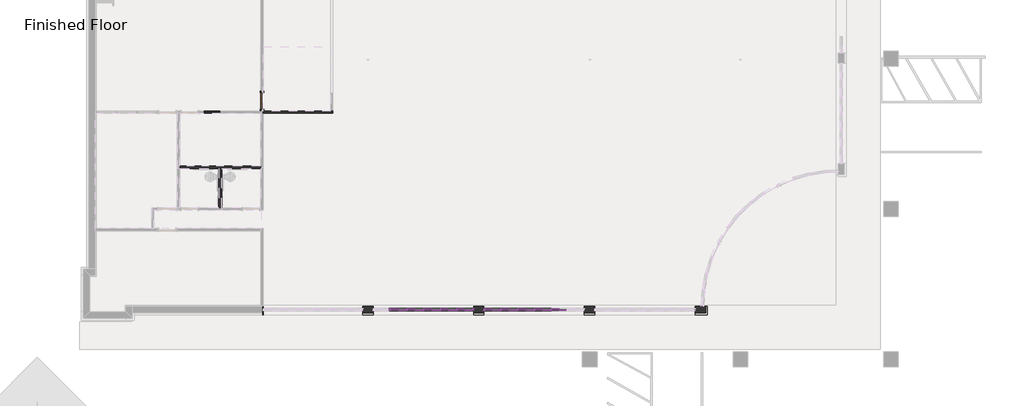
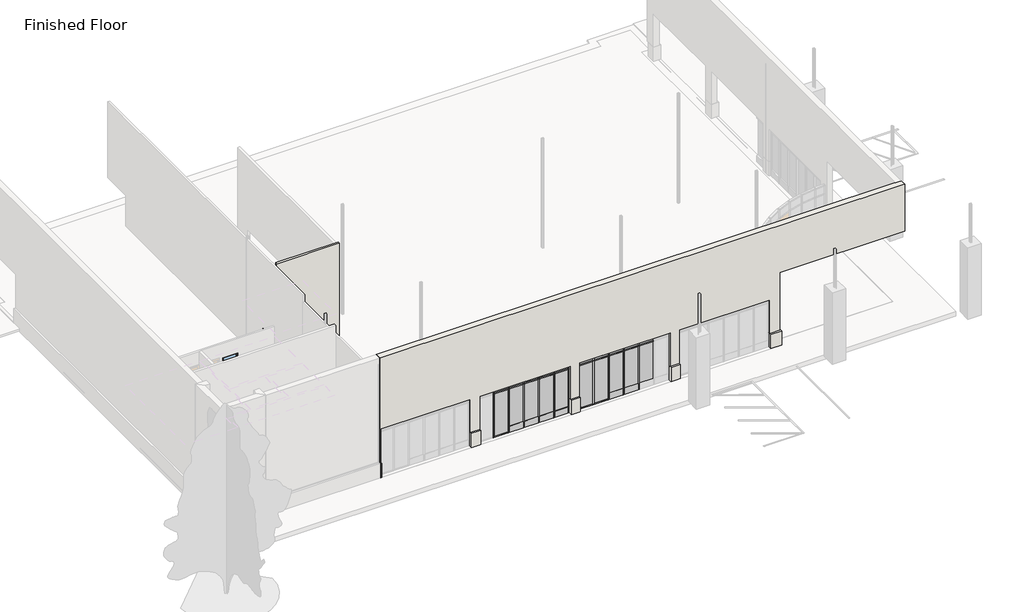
# One storey, part 2 of 6: 51 members, 20 plates, 5 walls, 1 door, 1 window.
"""IFC4 building model written with IfcOpenShell, lengths in millimetres."""

from ifc_helpers import new_model, si_unit, point, frame, origin, origin_with_axes, place, context, project, spatial, polyline, circle_curve, ellipse_curve, trimmed, outline, extrude, faceted_brep, transform, mapped, element, save
from ifc_brep_helpers import plane_surface, revolved_surface, advanced_brep
from components import door_9814c99b, member_d2e7e466, member_7db1855a, member_069002c8, member_a75f139a, member_8a16213d, member_a608d019, member_c17f1be2, member_ad567e07, rectangular_mullion_tall_mullion_dc5872ae, rectangular_mullion_tall_mullion_643de06f, system_panel_glazed_00e77426, system_panel_glazed_d5ca8191, system_panel_glazed_9d8b6f53, system_panel_glazed_0eb5479c, system_panel_glazed_0c1d7574, system_panel_glazed_61942ae4, window_51f22951

model = new_model("IFC4")

# Units and contexts
model_context = context("Model", 3, world=origin())
ifc_project = project(units=[si_unit("LENGTHUNIT", "METRE", prefix="MILLI")], contexts=[model_context])

# Site, building, storey
site = spatial("IfcSite", under=ifc_project)
building = spatial("IfcBuilding", under=site)
storey = spatial("IfcBuildingStorey", under=building, Name="Finished Floor", Elevation=0.0)

# Door
placement = place(None, origin())
door_shape = door_9814c99b(model_context)
element("IfcDoor", 1, ObjectType="Single-Flush : 36\" x 84\" 20Min", at=placement, inside=storey, context=model_context, shape_type="MappedRepresentation", body=[
    mapped(door_shape, transform((-12953.2102721, -2830.0875557, 0.0), x_axis=(0.0, -1.0, 0.0), y_axis=(1.0, 0.0, 0.0), z_axis=(0.0, 0.0, 1.0))),
])

# Members
member_shape = member_d2e7e466(model_context)
element("IfcMember", 2, ObjectType="Rectangular Mullion : 2.5\" x 5\" rectangular", at=placement, inside=storey, context=model_context, shape_type="MappedRepresentation", body=[
    mapped(member_shape, transform((2836.0647279, -14230.7188057, 3048.0), x_axis=(0.0, 0.0, 1.0), y_axis=(0.0, 1.0, 0.0), z_axis=(-1.0, 0.0, 0.0))),
])
element("IfcMember", 3, ObjectType="Rectangular Mullion : 2.5\" x 5\" rectangular", at=placement, inside=storey, context=model_context, shape_type="MappedRepresentation", body=[
    mapped(member_shape, transform((1921.6647279, -14230.7188057, 3048.0), x_axis=(0.0, 0.0, 1.0), y_axis=(0.0, 1.0, 0.0), z_axis=(-1.0, 0.0, 0.0))),
])
element("IfcMember", 4, ObjectType="Rectangular Mullion : 2.5\" x 5\" rectangular", at=placement, inside=storey, context=model_context, shape_type="MappedRepresentation", body=[
    mapped(member_shape, transform((-3209.1352721, -14230.7188057, 3048.0), x_axis=(0.0, 0.0, 1.0), y_axis=(0.0, 1.0, 0.0), z_axis=(-1.0, 0.0, 0.0))),
])
element("IfcMember", 5, ObjectType="Rectangular Mullion : 2.5\" x 5\" rectangular", at=placement, inside=storey, context=model_context, shape_type="MappedRepresentation", body=[
    mapped(member_shape, transform((-4123.5352721, -14230.7188057, 3048.0), x_axis=(0.0, 0.0, 1.0), y_axis=(0.0, 1.0, 0.0), z_axis=(-1.0, 0.0, 0.0))),
])
element("IfcMember", 6, ObjectType="Rectangular Mullion : 2.5\" x 5\" rectangular", at=placement, inside=storey, context=model_context, shape_type="MappedRepresentation", body=[
    mapped(member_shape, transform((1007.2647279, -14230.7188057, 3048.0), x_axis=(0.0, 0.0, 1.0), y_axis=(0.0, 1.0, 0.0), z_axis=(-1.0, 0.0, 0.0))),
])
element("IfcMember", 7, ObjectType="Rectangular Mullion : 2.5\" x 5\" rectangular", at=placement, inside=storey, context=model_context, shape_type="MappedRepresentation", body=[
    mapped(member_shape, transform((92.8647279, -14230.7188057, 3048.0), x_axis=(0.0, 0.0, 1.0), y_axis=(0.0, 1.0, 0.0), z_axis=(-1.0, 0.0, 0.0))),
])
element("IfcMember", 8, ObjectType="Rectangular Mullion : 2.5\" x 5\" rectangular", at=placement, inside=storey, context=model_context, shape_type="MappedRepresentation", body=[
    mapped(member_shape, transform((-5037.9352721, -14230.7188057, 3048.0), x_axis=(0.0, 0.0, 1.0), y_axis=(0.0, 1.0, 0.0), z_axis=(-1.0, 0.0, 0.0))),
])
element("IfcMember", 9, ObjectType="Rectangular Mullion : 2.5\" x 5\" rectangular", at=placement, inside=storey, context=model_context, shape_type="MappedRepresentation", body=[
    mapped(member_shape, transform((-5952.3352721, -14230.7188057, 3048.0), x_axis=(0.0, 0.0, 1.0), y_axis=(0.0, 1.0, 0.0), z_axis=(-1.0, 0.0, 0.0))),
])
member_2_shape = member_7db1855a(model_context)
element("IfcMember", 10, ObjectType="Rectangular Mullion : 2.5\" x 5\" rectangular", at=placement, inside=storey, context=model_context, shape_type="MappedRepresentation", body=[
    mapped(member_2_shape, transform((2836.0647279, -14230.7188057, 2813.05), x_axis=(0.0, 0.0, 1.0), y_axis=(0.0, 1.0, 0.0), z_axis=(-1.0, 0.0, 0.0))),
])
element("IfcMember", 11, ObjectType="Rectangular Mullion : 2.5\" x 5\" rectangular", at=placement, inside=storey, context=model_context, shape_type="MappedRepresentation", body=[
    mapped(member_2_shape, transform((1921.6647279, -14230.7188057, 2813.05), x_axis=(0.0, 0.0, 1.0), y_axis=(0.0, 1.0, 0.0), z_axis=(-1.0, 0.0, 0.0))),
])
element("IfcMember", 12, ObjectType="Rectangular Mullion : 2.5\" x 5\" rectangular", at=placement, inside=storey, context=model_context, shape_type="MappedRepresentation", body=[
    mapped(member_2_shape, transform((1007.2647279, -14230.7188057, 2813.05), x_axis=(0.0, 0.0, 1.0), y_axis=(0.0, 1.0, 0.0), z_axis=(-1.0, 0.0, 0.0))),
])
element("IfcMember", 13, ObjectType="Rectangular Mullion : 2.5\" x 5\" rectangular", at=placement, inside=storey, context=model_context, shape_type="MappedRepresentation", body=[
    mapped(member_2_shape, transform((-3209.1352721, -14230.7188057, 2813.05), x_axis=(0.0, 0.0, 1.0), y_axis=(0.0, 1.0, 0.0), z_axis=(-1.0, 0.0, 0.0))),
])
element("IfcMember", 14, ObjectType="Rectangular Mullion : 2.5\" x 5\" rectangular", at=placement, inside=storey, context=model_context, shape_type="MappedRepresentation", body=[
    mapped(member_2_shape, transform((-4123.5352721, -14230.7188057, 2813.05), x_axis=(0.0, 0.0, 1.0), y_axis=(0.0, 1.0, 0.0), z_axis=(-1.0, 0.0, 0.0))),
])
element("IfcMember", 15, ObjectType="Rectangular Mullion : 2.5\" x 5\" rectangular", at=placement, inside=storey, context=model_context, shape_type="MappedRepresentation", body=[
    mapped(member_2_shape, transform((92.8647279, -14230.7188057, 2813.05), x_axis=(0.0, 0.0, 1.0), y_axis=(0.0, 1.0, 0.0), z_axis=(-1.0, 0.0, 0.0))),
])
element("IfcMember", 16, ObjectType="Rectangular Mullion : 2.5\" x 5\" rectangular", at=placement, inside=storey, context=model_context, shape_type="MappedRepresentation", body=[
    mapped(member_2_shape, transform((-5952.3352721, -14230.7188057, 2813.05), x_axis=(0.0, 0.0, 1.0), y_axis=(0.0, 1.0, 0.0), z_axis=(-1.0, 0.0, 0.0))),
])
element("IfcMember", 17, ObjectType="Rectangular Mullion : 2.5\" x 5\" rectangular", at=placement, inside=storey, context=model_context, shape_type="MappedRepresentation", body=[
    mapped(member_shape, transform((943.7647279, -14230.7188057, 0.0), x_axis=(0.0, 0.0, -1.0), y_axis=(0.0, 1.0, 0.0), z_axis=(1.0, 0.0, 0.0))),
])
element("IfcMember", 18, ObjectType="Rectangular Mullion : 2.5\" x 5\" rectangular", at=placement, inside=storey, context=model_context, shape_type="MappedRepresentation", body=[
    mapped(member_shape, transform((-5101.4352721, -14230.7188057, 0.0), x_axis=(0.0, 0.0, -1.0), y_axis=(0.0, 1.0, 0.0), z_axis=(1.0, 0.0, 0.0))),
])
member_3_shape = member_069002c8(model_context)
element("IfcMember", 19, ObjectType="Rectangular Mullion : 2.5\" x 5\" rectangular", at=placement, inside=storey, context=model_context, shape_type="MappedRepresentation", body=[
    mapped(member_3_shape, transform((2804.3147279, -14230.7188057, 0.0), x_axis=(-1.0, 0.0, 0.0), y_axis=(0.0, 1.0, 0.0), z_axis=(0.0, 0.0, -1.0))),
])
element("IfcMember", 20, ObjectType="Rectangular Mullion : 2.5\" x 5\" rectangular", at=placement, inside=storey, context=model_context, shape_type="MappedRepresentation", body=[
    mapped(member_3_shape, transform((1889.9147279, -14230.7188057, 0.0), x_axis=(-1.0, 0.0, 0.0), y_axis=(0.0, 1.0, 0.0), z_axis=(0.0, 0.0, -1.0))),
])
element("IfcMember", 21, ObjectType="Rectangular Mullion : 2.5\" x 5\" rectangular", at=placement, inside=storey, context=model_context, shape_type="MappedRepresentation", body=[
    mapped(member_3_shape, transform((-2326.4852721, -14230.7188057, 0.0), x_axis=(-1.0, 0.0, 0.0), y_axis=(0.0, 1.0, 0.0), z_axis=(0.0, 0.0, -1.0))),
])
element("IfcMember", 22, ObjectType="Rectangular Mullion : 2.5\" x 5\" rectangular", at=placement, inside=storey, context=model_context, shape_type="MappedRepresentation", body=[
    mapped(member_3_shape, transform((-3240.8852721, -14230.7188057, 0.0), x_axis=(-1.0, 0.0, 0.0), y_axis=(0.0, 1.0, 0.0), z_axis=(0.0, 0.0, -1.0))),
])
element("IfcMember", 23, ObjectType="Rectangular Mullion : 2.5\" x 5\" rectangular", at=placement, inside=storey, context=model_context, shape_type="MappedRepresentation", body=[
    mapped(member_3_shape, transform((-4155.2852721, -14230.7188057, 0.0), x_axis=(-1.0, 0.0, 0.0), y_axis=(0.0, 1.0, 0.0), z_axis=(0.0, 0.0, -1.0))),
])
element("IfcMember", 24, ObjectType="Rectangular Mullion : 2.5\" x 5\" rectangular", at=placement, inside=storey, context=model_context, shape_type="MappedRepresentation", body=[
    mapped(member_3_shape, transform((975.5147279, -14230.7188057, 0.0), x_axis=(-1.0, 0.0, 0.0), y_axis=(0.0, 1.0, 0.0), z_axis=(0.0, 0.0, -1.0))),
])
element("IfcMember", 25, ObjectType="Rectangular Mullion : 2.5\" x 5\" rectangular", at=placement, inside=storey, context=model_context, shape_type="MappedRepresentation", body=[
    mapped(member_3_shape, transform((61.1147279, -14230.7188057, 0.0), x_axis=(-1.0, 0.0, 0.0), y_axis=(0.0, 1.0, 0.0), z_axis=(0.0, 0.0, -1.0))),
])
element("IfcMember", 26, ObjectType="Rectangular Mullion : 2.5\" x 5\" rectangular", at=placement, inside=storey, context=model_context, shape_type="MappedRepresentation", body=[
    mapped(member_3_shape, transform((-5069.6852721, -14230.7188057, 0.0), x_axis=(-1.0, 0.0, 0.0), y_axis=(0.0, 1.0, 0.0), z_axis=(0.0, 0.0, -1.0))),
])
element("IfcMember", 27, ObjectType="Rectangular Mullion : 2.5\" x 5\" rectangular", at=placement, inside=storey, context=model_context, shape_type="MappedRepresentation", body=[
    mapped(member_3_shape, transform((-5984.0852721, -14230.7188057, 0.0), x_axis=(-1.0, 0.0, 0.0), y_axis=(0.0, 1.0, 0.0), z_axis=(0.0, 0.0, -1.0))),
])
member_4_shape = member_a75f139a(model_context)
element("IfcMember", 28, ObjectType="Rectangular Mullion : 2.5\" x 5\" rectangular", at=placement, inside=storey, context=model_context, shape_type="MappedRepresentation", body=[
    mapped(member_4_shape, transform((2804.3147279, -14230.7188057, 2813.05), x_axis=(-1.0, 0.0, 0.0), y_axis=(0.0, 1.0, 0.0), z_axis=(0.0, 0.0, -1.0))),
])
element("IfcMember", 29, ObjectType="Rectangular Mullion : 2.5\" x 5\" rectangular", at=placement, inside=storey, context=model_context, shape_type="MappedRepresentation", body=[
    mapped(member_4_shape, transform((1889.9147279, -14230.7188057, 2813.05), x_axis=(-1.0, 0.0, 0.0), y_axis=(0.0, 1.0, 0.0), z_axis=(0.0, 0.0, -1.0))),
])
element("IfcMember", 30, ObjectType="Rectangular Mullion : 2.5\" x 5\" rectangular", at=placement, inside=storey, context=model_context, shape_type="MappedRepresentation", body=[
    mapped(member_4_shape, transform((-2326.4852721, -14230.7188057, 2813.05), x_axis=(-1.0, 0.0, 0.0), y_axis=(0.0, 1.0, 0.0), z_axis=(0.0, 0.0, -1.0))),
])
element("IfcMember", 31, ObjectType="Rectangular Mullion : 2.5\" x 5\" rectangular", at=placement, inside=storey, context=model_context, shape_type="MappedRepresentation", body=[
    mapped(member_4_shape, transform((-3240.8852721, -14230.7188057, 2813.05), x_axis=(-1.0, 0.0, 0.0), y_axis=(0.0, 1.0, 0.0), z_axis=(0.0, 0.0, -1.0))),
])
element("IfcMember", 32, ObjectType="Rectangular Mullion : 2.5\" x 5\" rectangular", at=placement, inside=storey, context=model_context, shape_type="MappedRepresentation", body=[
    mapped(member_4_shape, transform((-4155.2852721, -14230.7188057, 2813.05), x_axis=(-1.0, 0.0, 0.0), y_axis=(0.0, 1.0, 0.0), z_axis=(0.0, 0.0, -1.0))),
])
element("IfcMember", 33, ObjectType="Rectangular Mullion : 2.5\" x 5\" rectangular", at=placement, inside=storey, context=model_context, shape_type="MappedRepresentation", body=[
    mapped(member_4_shape, transform((975.5147279, -14230.7188057, 2813.05), x_axis=(-1.0, 0.0, 0.0), y_axis=(0.0, 1.0, 0.0), z_axis=(0.0, 0.0, -1.0))),
])
element("IfcMember", 34, ObjectType="Rectangular Mullion : 2.5\" x 5\" rectangular", at=placement, inside=storey, context=model_context, shape_type="MappedRepresentation", body=[
    mapped(member_4_shape, transform((61.1147279, -14230.7188057, 2813.05), x_axis=(-1.0, 0.0, 0.0), y_axis=(0.0, 1.0, 0.0), z_axis=(0.0, 0.0, -1.0))),
])
element("IfcMember", 35, ObjectType="Rectangular Mullion : 2.5\" x 5\" rectangular", at=placement, inside=storey, context=model_context, shape_type="MappedRepresentation", body=[
    mapped(member_4_shape, transform((-5069.6852721, -14230.7188057, 2813.05), x_axis=(-1.0, 0.0, 0.0), y_axis=(0.0, 1.0, 0.0), z_axis=(0.0, 0.0, -1.0))),
])
element("IfcMember", 36, ObjectType="Rectangular Mullion : 2.5\" x 5\" rectangular", at=placement, inside=storey, context=model_context, shape_type="MappedRepresentation", body=[
    mapped(member_4_shape, transform((-5984.0852721, -14230.7188057, 2813.05), x_axis=(-1.0, 0.0, 0.0), y_axis=(0.0, 1.0, 0.0), z_axis=(0.0, 0.0, -1.0))),
])
member_5_shape = member_8a16213d(model_context)
element("IfcMember", 37, ObjectType="Rectangular Mullion : 2.5\" x 5\" rectangular", at=placement, inside=storey, context=model_context, shape_type="MappedRepresentation", body=[
    mapped(member_5_shape, transform((-853.2852721, -14230.7188057, 0.0), x_axis=(-1.0, 0.0, 0.0), y_axis=(0.0, 1.0, 0.0), z_axis=(0.0, 0.0, -1.0))),
])
member_6_shape = member_a608d019(model_context)
element("IfcMember", 38, ObjectType="Rectangular Mullion : 2.5\" x 5\" rectangular", at=placement, inside=storey, context=model_context, shape_type="MappedRepresentation", body=[
    mapped(member_6_shape, transform((-853.2852721, -14230.7188057, 2813.05), x_axis=(-1.0, 0.0, 0.0), y_axis=(0.0, 1.0, 0.0), z_axis=(0.0, 0.0, -1.0))),
])
element("IfcMember", 39, ObjectType="Rectangular Mullion : 2.5\" x 5\" rectangular", at=placement, inside=storey, context=model_context, shape_type="MappedRepresentation", body=[
    mapped(member_6_shape, transform((-1412.0852721, -14230.7188057, 3048.0), x_axis=(1.0, 0.0, 0.0), y_axis=(0.0, 1.0, 0.0), z_axis=(0.0, 0.0, 1.0))),
])
element("IfcMember", 40, ObjectType="Rectangular Mullion : 2.5\" x 5\" rectangular", at=placement, inside=storey, context=model_context, shape_type="MappedRepresentation", body=[
    mapped(member_5_shape, transform((-1412.0852721, -14230.7188057, 2813.05), x_axis=(1.0, 0.0, 0.0), y_axis=(0.0, 1.0, 0.0), z_axis=(0.0, 0.0, 1.0))),
])
member_7_shape = member_c17f1be2(model_context)
element("IfcMember", 41, ObjectType="Rectangular Mullion : 2.5\" x 5\" rectangular", at=placement, inside=storey, context=model_context, shape_type="MappedRepresentation", body=[
    mapped(member_7_shape, transform((-789.7852721, -14230.7188057, 3048.0), x_axis=(0.0, 0.0, 1.0), y_axis=(0.0, 1.0, 0.0), z_axis=(-1.0, 0.0, 0.0))),
])
element("IfcMember", 42, ObjectType="Rectangular Mullion : 2.5\" x 5\" rectangular", at=placement, inside=storey, context=model_context, shape_type="MappedRepresentation", body=[
    mapped(member_7_shape, transform((3750.4647279, -14230.7188057, 3048.0), x_axis=(0.0, 0.0, 1.0), y_axis=(0.0, 1.0, 0.0), z_axis=(-1.0, 0.0, 0.0))),
])
element("IfcMember", 43, ObjectType="Rectangular Mullion : 2.5\" x 5\" rectangular", at=placement, inside=storey, context=model_context, shape_type="MappedRepresentation", body=[
    mapped(member_7_shape, transform((-2294.7352721, -14230.7188057, 3048.0), x_axis=(0.0, 0.0, 1.0), y_axis=(0.0, 1.0, 0.0), z_axis=(-1.0, 0.0, 0.0))),
])
member_8_shape = member_ad567e07(model_context)
element("IfcMember", 44, ObjectType="Rectangular Mullion : 2.5\" x 5\" rectangular", at=placement, inside=storey, context=model_context, shape_type="MappedRepresentation", body=[
    mapped(member_8_shape, transform((-2294.7352721, -14230.7188057, 2813.05), x_axis=(0.0, 0.0, 1.0), y_axis=(0.0, 1.0, 0.0), z_axis=(-1.0, 0.0, 0.0))),
])
element("IfcMember", 45, ObjectType="Rectangular Mullion : 2.5\" x 5\" rectangular", at=placement, inside=storey, context=model_context, shape_type="MappedRepresentation", body=[
    mapped(member_8_shape, transform((-789.7852721, -14230.7188057, 2813.05), x_axis=(0.0, 0.0, 1.0), y_axis=(0.0, 1.0, 0.0), z_axis=(-1.0, 0.0, 0.0))),
])
element("IfcMember", 46, ObjectType="Rectangular Mullion : 2.5\" x 5\" rectangular", at=placement, inside=storey, context=model_context, shape_type="MappedRepresentation", body=[
    mapped(member_7_shape, transform((29.3647279, -14230.7188057, 0.0), x_axis=(0.0, 0.0, -1.0), y_axis=(0.0, 1.0, 0.0), z_axis=(1.0, 0.0, 0.0))),
])
rectangular_mullion_tall_mullion_shape = rectangular_mullion_tall_mullion_dc5872ae(model_context)
element("IfcMember", 47, ObjectType="Rectangular Mullion : Tall Mullion", at=placement, inside=storey, context=model_context, shape_type="MappedRepresentation", body=[
    mapped(rectangular_mullion_tall_mullion_shape, transform((2772.5647279, -14230.7188057, 0.0), x_axis=(0.0, 0.0, -1.0), y_axis=(0.0, 1.0, 0.0), z_axis=(1.0, 0.0, 0.0))),
])
element("IfcMember", 48, ObjectType="Rectangular Mullion : Tall Mullion", at=placement, inside=storey, context=model_context, shape_type="MappedRepresentation", body=[
    mapped(rectangular_mullion_tall_mullion_shape, transform((1858.1647279, -14230.7188057, 0.0), x_axis=(0.0, 0.0, -1.0), y_axis=(0.0, 1.0, 0.0), z_axis=(1.0, 0.0, 0.0))),
])
element("IfcMember", 49, ObjectType="Rectangular Mullion : Tall Mullion", at=placement, inside=storey, context=model_context, shape_type="MappedRepresentation", body=[
    mapped(rectangular_mullion_tall_mullion_shape, transform((-2358.2352721, -14230.7188057, 0.0), x_axis=(0.0, 0.0, -1.0), y_axis=(0.0, 1.0, 0.0), z_axis=(1.0, 0.0, 0.0))),
])
element("IfcMember", 50, ObjectType="Rectangular Mullion : Tall Mullion", at=placement, inside=storey, context=model_context, shape_type="MappedRepresentation", body=[
    mapped(rectangular_mullion_tall_mullion_shape, transform((-3272.6352721, -14230.7188057, 0.0), x_axis=(0.0, 0.0, -1.0), y_axis=(0.0, 1.0, 0.0), z_axis=(1.0, 0.0, 0.0))),
])
element("IfcMember", 51, ObjectType="Rectangular Mullion : Tall Mullion", at=placement, inside=storey, context=model_context, shape_type="MappedRepresentation", body=[
    mapped(rectangular_mullion_tall_mullion_shape, transform((-4187.0352721, -14230.7188057, 0.0), x_axis=(0.0, 0.0, -1.0), y_axis=(0.0, 1.0, 0.0), z_axis=(1.0, 0.0, 0.0))),
])
rectangular_mullion_tall_mullion_2_shape = rectangular_mullion_tall_mullion_643de06f(model_context)
element("IfcMember", 52, ObjectType="Rectangular Mullion : Tall Mullion", at=placement, inside=storey, context=model_context, shape_type="MappedRepresentation", body=[
    mapped(rectangular_mullion_tall_mullion_2_shape, transform((-1475.5852721, -14230.7188057, 0.0), x_axis=(0.0, 0.0, -1.0), y_axis=(0.0, 1.0, 0.0), z_axis=(1.0, 0.0, 0.0))),
])

# Plates
system_panel_glazed_shape = system_panel_glazed_00e77426(model_context)
element("IfcPlate", 53, ObjectType="System Panel : Glazed", at=placement, inside=storey, context=model_context, shape_type="MappedRepresentation", body=[
    mapped(system_panel_glazed_shape, transform((3261.5147279, -14230.7188057, 406.4), x_axis=(-1.0, 0.0, 0.0), y_axis=(0.0, -1.0, 0.0), z_axis=(0.0, 0.0, 1.0))),
])
element("IfcPlate", 54, ObjectType="System Panel : Glazed", at=placement, inside=storey, context=model_context, shape_type="MappedRepresentation", body=[
    mapped(system_panel_glazed_shape, transform((2347.1147279, -14230.7188057, 406.4), x_axis=(-1.0, 0.0, 0.0), y_axis=(0.0, -1.0, 0.0), z_axis=(0.0, 0.0, 1.0))),
])
element("IfcPlate", 55, ObjectType="System Panel : Glazed", at=placement, inside=storey, context=model_context, shape_type="MappedRepresentation", body=[
    mapped(system_panel_glazed_shape, transform((1432.7147279, -14230.7188057, 406.4), x_axis=(-1.0, 0.0, 0.0), y_axis=(0.0, -1.0, 0.0), z_axis=(0.0, 0.0, 1.0))),
])
element("IfcPlate", 56, ObjectType="System Panel : Glazed", at=placement, inside=storey, context=model_context, shape_type="MappedRepresentation", body=[
    mapped(system_panel_glazed_shape, transform((-2783.6852721, -14230.7188057, 406.4), x_axis=(-1.0, 0.0, 0.0), y_axis=(0.0, -1.0, 0.0), z_axis=(0.0, 0.0, 1.0))),
])
element("IfcPlate", 57, ObjectType="System Panel : Glazed", at=placement, inside=storey, context=model_context, shape_type="MappedRepresentation", body=[
    mapped(system_panel_glazed_shape, transform((-3698.0852721, -14230.7188057, 406.4), x_axis=(-1.0, 0.0, 0.0), y_axis=(0.0, -1.0, 0.0), z_axis=(0.0, 0.0, 1.0))),
])
element("IfcPlate", 58, ObjectType="System Panel : Glazed", at=placement, inside=storey, context=model_context, shape_type="MappedRepresentation", body=[
    mapped(system_panel_glazed_shape, transform((-4612.4852721, -14230.7188057, 406.4), x_axis=(-1.0, 0.0, 0.0), y_axis=(0.0, -1.0, 0.0), z_axis=(0.0, 0.0, 1.0))),
])
system_panel_glazed_2_shape = system_panel_glazed_d5ca8191(model_context)
element("IfcPlate", 59, ObjectType="System Panel : Glazed", at=placement, inside=storey, context=model_context, shape_type="MappedRepresentation", body=[
    mapped(system_panel_glazed_2_shape, transform((3261.5147279, -14230.7188057, 2844.8), x_axis=(-1.0, 0.0, 0.0), y_axis=(0.0, -1.0, 0.0), z_axis=(0.0, 0.0, 1.0))),
])
element("IfcPlate", 60, ObjectType="System Panel : Glazed", at=placement, inside=storey, context=model_context, shape_type="MappedRepresentation", body=[
    mapped(system_panel_glazed_2_shape, transform((2347.1147279, -14230.7188057, 2844.8), x_axis=(-1.0, 0.0, 0.0), y_axis=(0.0, -1.0, 0.0), z_axis=(0.0, 0.0, 1.0))),
])
element("IfcPlate", 61, ObjectType="System Panel : Glazed", at=placement, inside=storey, context=model_context, shape_type="MappedRepresentation", body=[
    mapped(system_panel_glazed_2_shape, transform((1432.7147279, -14230.7188057, 2844.8), x_axis=(-1.0, 0.0, 0.0), y_axis=(0.0, -1.0, 0.0), z_axis=(0.0, 0.0, 1.0))),
])
element("IfcPlate", 62, ObjectType="System Panel : Glazed", at=placement, inside=storey, context=model_context, shape_type="MappedRepresentation", body=[
    mapped(system_panel_glazed_2_shape, transform((-2783.6852721, -14230.7188057, 2844.8), x_axis=(-1.0, 0.0, 0.0), y_axis=(0.0, -1.0, 0.0), z_axis=(0.0, 0.0, 1.0))),
])
element("IfcPlate", 63, ObjectType="System Panel : Glazed", at=placement, inside=storey, context=model_context, shape_type="MappedRepresentation", body=[
    mapped(system_panel_glazed_2_shape, transform((-3698.0852721, -14230.7188057, 2844.8), x_axis=(-1.0, 0.0, 0.0), y_axis=(0.0, -1.0, 0.0), z_axis=(0.0, 0.0, 1.0))),
])
element("IfcPlate", 64, ObjectType="System Panel : Glazed", at=placement, inside=storey, context=model_context, shape_type="MappedRepresentation", body=[
    mapped(system_panel_glazed_2_shape, transform((-4612.4852721, -14230.7188057, 2844.8), x_axis=(-1.0, 0.0, 0.0), y_axis=(0.0, -1.0, 0.0), z_axis=(0.0, 0.0, 1.0))),
])
element("IfcPlate", 65, ObjectType="System Panel : Glazed", at=placement, inside=storey, context=model_context, shape_type="MappedRepresentation", body=[
    mapped(system_panel_glazed_2_shape, transform((518.3147279, -14230.7188057, 2844.8), x_axis=(-1.0, 0.0, 0.0), y_axis=(0.0, -1.0, 0.0), z_axis=(0.0, 0.0, 1.0))),
])
element("IfcPlate", 66, ObjectType="System Panel : Glazed", at=placement, inside=storey, context=model_context, shape_type="MappedRepresentation", body=[
    mapped(system_panel_glazed_2_shape, transform((-5526.8852721, -14230.7188057, 2844.8), x_axis=(-1.0, 0.0, 0.0), y_axis=(0.0, -1.0, 0.0), z_axis=(0.0, 0.0, 1.0))),
])
system_panel_glazed_3_shape = system_panel_glazed_9d8b6f53(model_context)
element("IfcPlate", 67, ObjectType="System Panel : Glazed", at=placement, inside=storey, context=model_context, shape_type="MappedRepresentation", body=[
    mapped(system_panel_glazed_3_shape, transform((518.3147279, -14230.7188057, 63.5), x_axis=(-1.0, 0.0, 0.0), y_axis=(0.0, -1.0, 0.0), z_axis=(0.0, 0.0, 1.0))),
])
element("IfcPlate", 68, ObjectType="System Panel : Glazed", at=placement, inside=storey, context=model_context, shape_type="MappedRepresentation", body=[
    mapped(system_panel_glazed_3_shape, transform((-5526.8852721, -14230.7188057, 63.5), x_axis=(-1.0, 0.0, 0.0), y_axis=(0.0, -1.0, 0.0), z_axis=(0.0, 0.0, 1.0))),
])
system_panel_glazed_4_shape = system_panel_glazed_0eb5479c(model_context)
element("IfcPlate", 69, ObjectType="System Panel : Glazed", at=placement, inside=storey, context=model_context, shape_type="MappedRepresentation", body=[
    mapped(system_panel_glazed_4_shape, transform((-1885.1602721, -14230.7188057, 406.4), x_axis=(-1.0, 0.0, 0.0), y_axis=(0.0, -1.0, 0.0), z_axis=(0.0, 0.0, 1.0))),
])
system_panel_glazed_5_shape = system_panel_glazed_0c1d7574(model_context)
element("IfcPlate", 70, ObjectType="System Panel : Glazed", at=placement, inside=storey, context=model_context, shape_type="MappedRepresentation", body=[
    mapped(system_panel_glazed_5_shape, transform((-1885.1602721, -14230.7188057, 2844.8), x_axis=(-1.0, 0.0, 0.0), y_axis=(0.0, -1.0, 0.0), z_axis=(0.0, 0.0, 1.0))),
])
element("IfcPlate", 71, ObjectType="System Panel : Glazed", at=placement, inside=storey, context=model_context, shape_type="MappedRepresentation", body=[
    mapped(system_panel_glazed_5_shape, transform((-380.2102721, -14230.7188057, 2844.8), x_axis=(-1.0, 0.0, 0.0), y_axis=(0.0, -1.0, 0.0), z_axis=(0.0, 0.0, 1.0))),
])
system_panel_glazed_6_shape = system_panel_glazed_61942ae4(model_context)
element("IfcPlate", 72, ObjectType="System Panel : Glazed", at=placement, inside=storey, context=model_context, shape_type="MappedRepresentation", body=[
    mapped(system_panel_glazed_6_shape, transform((-380.2102721, -14230.7188057, 63.5), x_axis=(-1.0, 0.0, 0.0), y_axis=(0.0, -1.0, 0.0), z_axis=(0.0, 0.0, 1.0))),
])

# Walls
element("IfcWall", 73, ObjectType="Exterior - Brick on Mtl. Stud", at=placement, inside=storey, context=model_context, shape_type="AdvancedBrep", body=[
    advanced_brep(
    [(-12953.2102721, -14054.5063057, 7620.0), (18477.7022279, -14054.5063057, 7620.0), (18830.1272279, -14054.5063057, 7620.0), (18830.1272279, -14054.5063057, 4625.5040439), (18477.7022279, -14054.5063057, 4625.5040439), (11260.9272279, -14054.5063057, 4625.5040439), (11260.9272279, -14054.5063057, 3048.0), (11260.9272279, -14054.5063057, 914.4), (10678.3147279, -14054.5063057, 914.4), (10678.3147279, -14054.5063057, 3048.0), (5191.9147279, -14054.5063057, 3048.0), (5191.9147279, -14054.5063057, 914.4), (4633.1147279, -14054.5063057, 914.4), (4633.1147279, -14054.5063057, 3048.0), (-853.2852721, -14054.5063057, 3048.0), (-853.2852721, -14054.5063057, 914.4), (-1412.0852721, -14054.5063057, 914.4), (-1412.0852721, -14054.5063057, 3048.0), (-6898.4852721, -14054.5063057, 3048.0), (-6898.4852721, -14054.5063057, 914.4), (-7457.2852721, -14054.5063057, 914.4), (-7457.2852721, -14054.5063057, 3048.0), (-12883.3602721, -14054.5063057, 3048.0), (-12883.3602721, -14054.5063057, 914.4), (-12953.2102721, -14054.5063057, 914.4), (18830.1272279, -14406.9313057, 7620.0), (-12953.2102721, -14406.9313057, 7620.0), (-12953.2102721, -14406.9313057, 984.25), (-12953.2102721, -14406.9313057, 914.4), (-12883.3602721, -14406.9313057, 914.4), (-12883.3602721, -14406.9313057, 3048.0), (-7457.2852721, -14406.9313057, 3048.0), (-7457.2852721, -14406.9313057, 914.4), (-6898.4852721, -14406.9313057, 914.4), (-6898.4852721, -14406.9313057, 3048.0), (-1412.0852721, -14406.9313057, 3048.0), (-1412.0852721, -14406.9313057, 914.4), (-853.2852721, -14406.9313057, 914.4), (-853.2852721, -14406.9313057, 3048.0), (4633.1147279, -14406.9313057, 3048.0), (4633.1147279, -14406.9313057, 914.4), (5191.9147279, -14406.9313057, 914.4), (5191.9147279, -14406.9313057, 3048.0), (10678.3147279, -14406.9313057, 3048.0), (10678.3147279, -14406.9313057, 914.4), (11269.5375503, -14406.9313057, 914.4), (11269.5375503, -14406.9313057, 4625.5040439), (18830.1272279, -14406.9313057, 4625.5040439), (-12953.2102721, -14397.4063057, 914.4)],
    [
        (0, 1),
        (1, 2),
        (2, 3),
        (3, 4),
        (4, 5),
        (5, 6),
        (6, 7),
        (7, 8),
        (8, 9),
        (9, 10),
        (10, 11),
        (11, 12),
        (12, 13),
        (13, 14),
        (14, 15),
        (15, 16),
        (16, 17),
        (17, 18),
        (18, 19),
        (19, 20),
        (20, 21),
        (21, 22),
        (22, 23),
        (23, 24),
        (24, 0),
        (25, 26),
        (26, 27),
        (27, 28),
        (28, 29),
        (29, 30),
        (30, 31),
        (31, 32),
        (32, 33),
        (33, 34),
        (34, 35),
        (35, 36),
        (36, 37),
        (37, 38),
        (38, 39),
        (39, 40),
        (40, 41),
        (41, 42),
        (42, 43),
        (43, 44),
        (44, 45),
        (45, 46),
        (46, 47),
        (47, 25),
        (43, 9),
        (8, 44),
        (42, 10),
        (41, 11),
        (31, 21),
        (20, 32),
        (30, 22),
        (29, 23),
        (39, 13),
        (12, 40),
        (38, 14),
        (37, 15),
        (35, 17),
        (16, 36),
        (34, 18),
        (33, 19),
        (0, 26),
        (25, 2),
        (7, 45, circle_curve(frame((18477.7022279, -14054.5063057, 914.4), z_axis=(0.0, 0.0, 1.0), x_axis=(1.0, 0.0, 0.0)), 7216.775)),
        (28, 48),
        (48, 24),
        (3, 47),
        (46, 5, circle_curve(frame((18477.7022279, -14054.5063057, 4625.5040439), z_axis=(0.0, 0.0, -1.0), x_axis=(1.0, 0.0, 0.0)), 7216.775)),
    ],
    [
        plane_surface(frame((-12953.2102721, -14054.5063057, 7620.0), z_axis=(0.0, 1.0, 0.0), x_axis=(1.0, 0.0, 0.0))),
        plane_surface(frame((-12953.2102721, -14406.9313057, 7620.0), z_axis=(0.0, -1.0, 0.0), x_axis=(-1.0, 0.0, 0.0))),
        plane_surface(frame((10678.3147279, -14559.3313057, 0.0), z_axis=(-1.0, 0.0, 0.0), x_axis=(0.0, 1.0, 0.0))),
        plane_surface(frame((10678.3147279, -14559.3313057, 3048.0), z_axis=(0.0, 0.0, -1.0), x_axis=(0.0, 1.0, 0.0))),
        plane_surface(frame((5191.9147279, -14559.3313057, 3048.0), z_axis=(1.0, 0.0, 0.0), x_axis=(0.0, 1.0, 0.0))),
        plane_surface(frame((-7457.2852721, -14559.3313057, 0.0), z_axis=(-1.0, 0.0, 0.0), x_axis=(0.0, 1.0, 0.0))),
        plane_surface(frame((-7457.2852721, -14559.3313057, 3048.0), z_axis=(0.0, 0.0, -1.0), x_axis=(0.0, 1.0, 0.0))),
        plane_surface(frame((-12883.3602721, -14559.3313057, 3048.0), z_axis=(1.0, 0.0, 0.0), x_axis=(0.0, 1.0, 0.0))),
        plane_surface(frame((4633.1147279, -14559.3313057, 0.0), z_axis=(-1.0, 0.0, 0.0), x_axis=(0.0, 1.0, 0.0))),
        plane_surface(frame((4633.1147279, -14559.3313057, 3048.0), z_axis=(0.0, 0.0, -1.0), x_axis=(0.0, 1.0, 0.0))),
        plane_surface(frame((-853.2852721, -14559.3313057, 3048.0), z_axis=(1.0, 0.0, 0.0), x_axis=(0.0, 1.0, 0.0))),
        plane_surface(frame((-1412.0852721, -14559.3313057, 0.0), z_axis=(-1.0, 0.0, 0.0), x_axis=(0.0, 1.0, 0.0))),
        plane_surface(frame((-1412.0852721, -14559.3313057, 3048.0), z_axis=(0.0, 0.0, -1.0), x_axis=(0.0, 1.0, 0.0))),
        plane_surface(frame((-6898.4852721, -14559.3313057, 3048.0), z_axis=(1.0, 0.0, 0.0), x_axis=(0.0, 1.0, 0.0))),
        plane_surface(frame((-12953.2102721, -14054.5063057, 7620.0), z_axis=(0.0, 0.0, 1.0), x_axis=(0.0, -1.0, 0.0))),
        plane_surface(frame((11086.8150464, -14054.5063057, 914.4), z_axis=(0.0, 0.0, -1.0), x_axis=(0.0, -1.0, 0.0))),
        plane_surface(frame((18653.9147279, -14054.5063057, 4625.5040439), z_axis=(0.0, 0.0, -1.0), x_axis=(0.0, -1.0, 0.0))),
        plane_surface(frame((18830.1272279, 12134.4811943, 7620.0), z_axis=(1.0, 0.0, 0.0), x_axis=(0.0, 0.0, 1.0))),
        revolved_surface(polyline([(25694.477227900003, -14054.5063057, 914.4000000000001), (25694.477227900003, -14054.5063057, 4625.5040439)]), (18477.7022279, -14054.5063057, 4572.0), (0.0, 0.0, -1.0)),
        plane_surface(frame((-12953.2102721, -14054.5063057, 914.4), z_axis=(-1.0, 0.0, 0.0), x_axis=(0.0, -1.0, 0.0))),
    ],
    [
        (0, [[1, 2, 3, 4, 5, 6, 7, 8, 9, 10, 11, 12, 13, 14, 15, 16, 17, 18, 19, 20, 21, 22, 23, 24, 25]]),
        (1, [[26, 27, 28, 29, 30, 31, 32, 33, 34, 35, 36, 37, 38, 39, 40, 41, 42, 43, 44, 45, 46, 47, 48]]),
        (2, [[49, -9, 50, -44]]),
        (3, [[-49, -43, 51, -10]]),
        (4, [[-51, -42, 52, -11]]),
        (5, [[53, -21, 54, -32]]),
        (6, [[-53, -31, 55, -22]]),
        (7, [[-55, -30, 56, -23]]),
        (8, [[57, -13, 58, -40]]),
        (9, [[-57, -39, 59, -14]]),
        (10, [[-59, -38, 60, -15]]),
        (11, [[61, -17, 62, -36]]),
        (12, [[-61, -35, 63, -18]]),
        (13, [[-63, -34, 64, -19]]),
        (14, [[-2, -1, 65, -26, 66]]),
        (15, [[-52, -41, -58, -12]]),
        (15, [[-54, -20, -64, -33]]),
        (15, [[-60, -37, -62, -16]]),
        (15, [[-8, 67, -45, -50]]),
        (15, [[68, 69, -24, -56, -29]]),
        (16, [[-5, -4, 70, -47, 71]]),
        (17, [[-3, -66, -48, -70]]),
        (18, [[-7, -6, -71, -46, -67]]),
        (19, [[-69, -68, -28, -27, -65, -25]]),
    ],
),
])
element("IfcWall", 74, ObjectType="Exterior - CMU on Mtl. Stud", at=placement, inside=storey, context=model_context, shape_type="Brep", body=[
    faceted_brep([(10678.3147279, -14054.5063057, 0.0), (10678.3147279, -14054.5063057, 914.4), (11260.9272279, -14054.5063057, 914.4), (11340.2095287, -14054.5063057, 914.4), (11340.2095287, -14054.5063057, 0.0), (10678.3147279, -14508.5313057, 914.4), (10678.3147279, -14508.5313057, 0.0), (11340.2095287, -14508.5313057, 0.0), (11340.2095287, -14508.5313057, 914.4), (10678.3147279, -14314.8563057, 0.0), (10678.3147279, -14406.9313057, 914.4), (10678.3147279, -14397.4063057, 914.4), (11340.2095287, -14397.4063057, 914.4), (11340.2095287, -14314.8563057, 0.0)], [[[0, 1, 2, 3, 4]], [[5, 6, 7, 8]], [[1, 0, 9, 6, 5, 10, 11]], [[3, 2, 1, 11, 10, 5, 8, 12]], [[4, 3, 12, 8, 7, 13]], [[0, 4, 13, 9]], [[13, 7, 6, 9]]]),
    faceted_brep([(5191.9147279, -14054.5063057, 914.4), (5191.9147279, -14054.5063057, 0.0), (4633.1147279, -14054.5063057, 0.0), (4633.1147279, -14054.5063057, 914.4), (5191.9147279, -14508.5313057, 0.0), (5191.9147279, -14508.5313057, 914.4), (4633.1147279, -14508.5313057, 914.4), (4633.1147279, -14508.5313057, 0.0), (5191.9147279, -14397.4063057, 914.4), (5191.9147279, -14406.9313057, 914.4), (5191.9147279, -14314.8563057, 0.0), (4633.1147279, -14314.8563057, 0.0), (4633.1147279, -14406.9313057, 914.4), (4633.1147279, -14397.4063057, 914.4)], [[[0, 1, 2, 3]], [[4, 5, 6, 7]], [[1, 0, 8, 9, 5, 4, 10]], [[3, 2, 11, 7, 6, 12, 13]], [[5, 9, 8, 0, 3, 13, 12, 6]], [[2, 1, 10, 11]], [[10, 4, 7, 11]]]),
    faceted_brep([(-7457.2852721, -14054.5063057, 0.0), (-7457.2852721, -14054.5063057, 914.4), (-6898.4852721, -14054.5063057, 914.4), (-6898.4852721, -14054.5063057, 0.0), (-7457.2852721, -14508.5313057, 914.4), (-7457.2852721, -14508.5313057, 0.0), (-6898.4852721, -14508.5313057, 0.0), (-6898.4852721, -14508.5313057, 914.4), (-7457.2852721, -14314.8563057, 0.0), (-7457.2852721, -14406.9313057, 914.4), (-7457.2852721, -14397.4063057, 914.4), (-6898.4852721, -14397.4063057, 914.4), (-6898.4852721, -14406.9313057, 914.4), (-6898.4852721, -14314.8563057, 0.0)], [[[0, 1, 2, 3]], [[4, 5, 6, 7]], [[1, 0, 8, 5, 4, 9, 10]], [[3, 2, 11, 12, 7, 6, 13]], [[1, 10, 9, 4, 7, 12, 11, 2]], [[8, 0, 3, 13]], [[5, 8, 13, 6]]]),
    faceted_brep([(-853.2852721, -14054.5063057, 914.4), (-853.2852721, -14054.5063057, 0.0), (-1412.0852721, -14054.5063057, 0.0), (-1412.0852721, -14054.5063057, 914.4), (-853.2852721, -14508.5313057, 0.0), (-853.2852721, -14508.5313057, 914.4), (-1412.0852721, -14508.5313057, 914.4), (-1412.0852721, -14508.5313057, 0.0), (-853.2852721, -14397.4063057, 914.4), (-853.2852721, -14406.9313057, 914.4), (-853.2852721, -14314.8563057, 0.0), (-1412.0852721, -14314.8563057, 0.0), (-1412.0852721, -14406.9313057, 914.4), (-1412.0852721, -14397.4063057, 914.4)], [[[0, 1, 2, 3]], [[4, 5, 6, 7]], [[1, 0, 8, 9, 5, 4, 10]], [[3, 2, 11, 7, 6, 12, 13]], [[5, 9, 8, 0, 3, 13, 12, 6]], [[1, 10, 11, 2]], [[10, 4, 7, 11]]]),
    faceted_brep([(-12953.2102721, -14054.5063057, 0.0), (-12953.2102721, -14054.5063057, 914.4), (-12883.3602721, -14054.5063057, 914.4), (-12883.3602721, -14054.5063057, 0.0), (-12953.2102721, -14508.5313057, 914.4), (-12953.2102721, -14508.5313057, 0.0), (-12883.3602721, -14508.5313057, 0.0), (-12883.3602721, -14508.5313057, 914.4), (-12883.3602721, -14397.4063057, 914.4), (-12883.3602721, -14406.9313057, 914.4), (-12883.3602721, -14314.8563057, 0.0), (-12953.2102721, -14314.8563057, 0.0), (-12953.2102721, -14406.9313057, 914.4), (-12953.2102721, -14397.4063057, 914.4)], [[[0, 1, 2, 3]], [[4, 5, 6, 7]], [[3, 2, 8, 9, 7, 6, 10]], [[1, 0, 11, 5, 4, 12, 13]], [[1, 13, 12, 4, 7, 9, 8, 2]], [[0, 3, 10, 11]], [[5, 11, 10, 6]]]),
])
element("IfcWall", 75, ObjectType="Interior - 5 1/2\" Partition", at=placement, inside=storey, context=model_context, shape_type="AdvancedBrep", body=[
    advanced_brep(
    [(-13023.0602721, -6395.6125557, 0.0), (-17461.7102721, -6395.6125557, 0.0), (-17461.7102721, -6395.6125557, 3048.0), (-13023.0602721, -6395.6125557, 3048.0), (-17461.7102721, -6516.2625557, 0.0), (-15328.1102721, -6516.2625557, 0.0), (-15156.6602721, -6516.2625557, 0.0), (-13023.0602721, -6516.2625557, 0.0), (-13023.0602721, -6516.2625557, 3048.0), (-15156.6602721, -6516.2625557, 3048.0), (-15328.1102721, -6516.2625557, 3048.0), (-17461.7102721, -6516.2625557, 3048.0), (-14334.3352721, -6516.2625557, 482.6), (-14194.6352721, -6516.2625557, 482.6), (-16207.5852721, -6516.2625557, 310.7591476), (-16067.8852721, -6516.2625557, 310.7591476), (-13023.0602721, -6455.9375557, 0.0), (-14194.6352721, -6425.7115557, 482.6), (-14334.3352721, -6425.7115557, 482.6), (-14324.8737721, -6416.2500557, 482.6), (-14204.0967721, -6416.2500557, 482.6), (-14264.4852721, -6416.2500557, 482.6), (-16207.5852721, -6425.7115557, 310.7591476), (-16067.8852721, -6425.7115557, 310.7591476), (-16198.1237721, -6416.2500557, 310.7591476), (-16077.3467721, -6416.2500557, 310.7591476), (-16137.7352721, -6416.2500557, 310.7591476)],
    [
        (0, 1),
        (1, 2),
        (2, 3),
        (3, 0),
        (4, 5),
        (5, 6),
        (6, 7),
        (7, 8),
        (8, 9),
        (9, 10),
        (10, 11),
        (11, 4),
        (12, 13, circle_curve(frame((-14264.4852721, -6516.2625557, 482.6), z_axis=(0.0, 1.0, 0.0), x_axis=(-1.0, 0.0, 0.0)), 69.85)),
        (13, 12, circle_curve(frame((-14264.4852721, -6516.2625557, 482.6), z_axis=(0.0, 1.0, 0.0), x_axis=(-1.0, 0.0, 0.0)), 69.85)),
        (14, 15, circle_curve(frame((-16137.7352721, -6516.2625557, 310.7591476), z_axis=(0.0, 1.0, 0.0), x_axis=(1.0, 0.0, 0.0)), 69.85)),
        (15, 14, circle_curve(frame((-16137.7352721, -6516.2625557, 310.7591476), z_axis=(0.0, 1.0, 0.0), x_axis=(1.0, 0.0, 0.0)), 69.85)),
        (0, 16),
        (16, 7),
        (4, 1),
        (2, 11),
        (8, 3),
        (17, 13),
        (12, 18),
        (18, 17, circle_curve(frame((-14264.4852721, -6425.7115557, 482.6), z_axis=(0.0, 1.0, 0.0), x_axis=(-1.0, 0.0, 0.0)), 69.85)),
        (17, 18, circle_curve(frame((-14264.4852721, -6425.7115557, 482.6), z_axis=(0.0, 1.0, 0.0), x_axis=(-1.0, 0.0, 0.0)), 69.85)),
        (18, 19, circle_curve(frame((-14324.8737721, -6425.7115557, 482.6), z_axis=(0.0, 0.0, -1.0), x_axis=(1.0, 0.0, 0.0)), 9.4615)),
        (19, 20, circle_curve(frame((-14264.4852721, -6416.2500557, 482.6), z_axis=(0.0, 1.0, 0.0), x_axis=(-1.0, 0.0, 0.0)), 60.3885)),
        (20, 17, circle_curve(frame((-14204.0967721, -6425.7115557, 482.6), z_axis=(0.0, 0.0, -1.0), x_axis=(-1.0, 0.0, 0.0)), 9.4615)),
        (20, 19, circle_curve(frame((-14264.4852721, -6416.2500557, 482.6), z_axis=(0.0, 1.0, 0.0), x_axis=(-1.0, 0.0, 0.0)), 60.3885)),
        (19, 21),
        (21, 20),
        (22, 23, circle_curve(frame((-16137.7352721, -6425.7115557, 310.7591476), z_axis=(0.0, 1.0, 0.0), x_axis=(1.0, 0.0, 0.0)), 69.85)),
        (23, 15),
        (14, 22),
        (23, 22, circle_curve(frame((-16137.7352721, -6425.7115557, 310.7591476), z_axis=(0.0, 1.0, 0.0), x_axis=(1.0, 0.0, 0.0)), 69.85)),
        (22, 24, circle_curve(frame((-16198.1237721, -6425.7115557, 310.7591476), z_axis=(0.0, 0.0, -1.0), x_axis=(1.0, 0.0, 0.0)), 9.4615)),
        (24, 25, circle_curve(frame((-16137.7352721, -6416.2500557, 310.7591476), z_axis=(0.0, 1.0, 0.0), x_axis=(1.0, 0.0, 0.0)), 60.3885)),
        (25, 23, circle_curve(frame((-16077.3467721, -6425.7115557, 310.7591476), z_axis=(0.0, 0.0, -1.0), x_axis=(-1.0, 0.0, 0.0)), 9.4615)),
        (25, 24, circle_curve(frame((-16137.7352721, -6416.2500557, 310.7591476), z_axis=(0.0, 1.0, 0.0), x_axis=(1.0, 0.0, 0.0)), 60.3885)),
        (24, 26),
        (26, 25),
    ],
    [
        plane_surface(frame((-15140.7852721, -6395.6125557, 0.0), z_axis=(0.0, 1.0, 0.0), x_axis=(-1.0, 0.0, 0.0))),
        plane_surface(frame((-15140.7852721, -6516.2625557, 0.0), z_axis=(0.0, -1.0, 0.0), x_axis=(1.0, 0.0, 0.0))),
        plane_surface(frame((-12953.2102721, -6395.6125557, 0.0), z_axis=(0.0, 0.0, -1.0), x_axis=(0.0, -1.0, 0.0))),
        plane_surface(frame((-17522.0352721, -6395.6125557, 3048.0), z_axis=(0.0, 0.0, 1.0), x_axis=(0.0, -1.0, 0.0))),
        plane_surface(frame((-17461.7102721, -6455.9375557, 0.0), z_axis=(-1.0, 0.0, 0.0), x_axis=(0.0, 1.0, 0.0))),
        revolved_surface(polyline([(-14334.335272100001, -6425.7115557, 482.6), (-14334.335272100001, -6516.2625557, 482.6)]), (-14264.4852721, -6605.1625557, 482.6), (0.0, 1.0, 0.0)),
        revolved_surface(trimmed(ellipse_curve(frame((-14324.8737721, -6425.7115557, 482.6), z_axis=(0.0, 0.0, 1.0), x_axis=(1.0, 0.0, 0.0)), 9.4615, 9.4615), [point((-14324.8737721, -6416.2500557, 482.6))], [point((-14334.3352721, -6425.7115557, 482.6))], True, "CARTESIAN"), (-14264.4852721, -6605.1625557, 482.6), (0.0, 1.0, 0.0)),
        plane_surface(frame((-14264.4852721, -6416.2500557, 482.6), z_axis=(0.0, -1.0, 0.0), x_axis=(-1.0, 0.0, 0.0))),
        revolved_surface(polyline([(-16067.8852721, -6425.7115557, 310.7591476), (-16067.8852721, -6516.2625557, 310.7591476)]), (-16137.7352721, -6605.1625557, 310.7591476), (0.0, 1.0, 0.0)),
        revolved_surface(trimmed(ellipse_curve(frame((-16077.3467721, -6425.7115557, 310.7591476), z_axis=(0.0, 0.0, -1.0), x_axis=(-1.0, 0.0, 0.0)), 9.4615, 9.4615), [point((-16077.3467721, -6416.2500557, 310.7591476))], [point((-16067.8852721, -6425.7115557, 310.7591476))], True, "CARTESIAN"), (-16137.7352721, -6605.1625557, 310.7591476), (0.0, 1.0, 0.0)),
        plane_surface(frame((-16137.7352721, -6416.2500557, 310.7591476), z_axis=(0.0, -1.0, 0.0), x_axis=(1.0, 0.0, 0.0))),
        plane_surface(frame((-13023.0602721, 14220.4561943, 6838.95), z_axis=(1.0, 0.0, 0.0), x_axis=(0.0, 1.0, 0.0))),
    ],
    [
        (0, [[1, 2, 3, 4]]),
        (1, [[5, 6, 7, 8, 9, 10, 11, 12], [13, 14], [15, 16]]),
        (2, [[-1, 17, 18, -7, -6, -5, 19]]),
        (3, [[-3, 20, -11, -10, -9, 21]]),
        (4, [[-2, -19, -12, -20]]),
        (5, [[22, -13, 23, 24]]),
        (5, [[-22, 25, -23, -14]]),
        (6, [[-24, 26, 27, 28]]),
        (6, [[-25, -28, 29, -26]]),
        (7, [[-27, 30, 31]]),
        (7, [[-29, -31, -30]]),
        (8, [[32, 33, -15, 34]]),
        (8, [[-33, 35, -34, -16]]),
        (9, [[-32, 36, 37, 38]]),
        (9, [[-35, -38, 39, -36]]),
        (10, [[-37, 40, 41]]),
        (10, [[-39, -41, -40]]),
        (11, [[-4, -21, -8, -18, -17]]),
    ],
),
])
element("IfcWall", 76, ObjectType="Interior - 5 1/2\" Partition", at=placement, inside=storey, context=model_context, shape_type="Brep", body=[
    faceted_brep([(-12883.3602721, -3500.0125557, 0.0), (-9095.5852721, -3500.0125557, 0.0), (-9095.5852721, -3500.0125557, 7010.4), (-12883.3602721, -3500.0125557, 7010.4), (-12883.3602721, -3379.3625557, 0.0), (-12883.3602721, -3379.3625557, 7010.4), (-9095.5852721, -3379.3625557, 7010.4), (-9095.5852721, -3379.3625557, 6838.95), (-9095.5852721, -3379.3625557, 0.0), (-9216.2352721, -3379.3625557, 0.0)], [[[0, 1, 2, 3]], [[4, 5, 6, 7, 8, 9]], [[1, 0, 4, 9, 8]], [[3, 2, 6, 5]], [[0, 3, 5, 4]], [[2, 1, 8, 7, 6]]]),
])
element("IfcWall", 77, ObjectType="Interior - 7 1/2\" Partition", at=placement, inside=storey, context=model_context, shape_type="SweptSolid", body=[
    extrude(outline(polyline([(-15156.6602721, -6516.2625557), (-15156.6602721, -8675.2625557), (-15328.1102721, -8675.2625557), (-15328.1102721, -6516.2625557), (-15156.6602721, -6516.2625557)])), origin_with_axes(), (0.0, 0.0, 1.0), 3048.0),
])

# Window
window_shape = window_51f22951(model_context)
element("IfcWindow", 78, ObjectType="Fixed : 36\" x 48\"", at=placement, inside=storey, context=model_context, shape_type="MappedRepresentation", body=[
    mapped(window_shape, transform((-15655.1352721, -3439.6875557, 0.0), x_axis=(1.0, 0.0, 0.0), y_axis=(0.0, 1.0, 0.0), z_axis=(0.0, 0.0, 1.0))),
])

save(model, "model.ifc")
